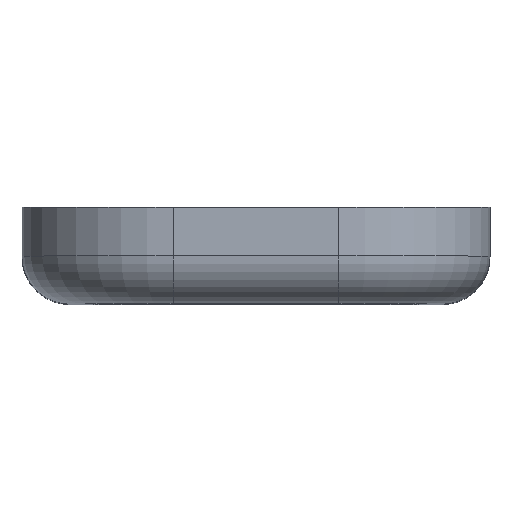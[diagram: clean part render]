
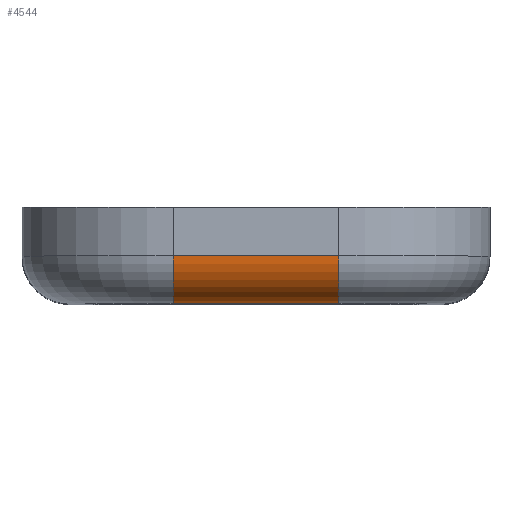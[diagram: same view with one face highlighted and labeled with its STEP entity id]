
A CAD part, top view. The second image highlights one B-rep face of the part: STEP entity #4544.
In plain terms, the highlighted cylindrical face has radius 9.2 mm (diameter 18.4 mm), a partial arc.
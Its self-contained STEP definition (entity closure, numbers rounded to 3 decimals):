
#497 = PLANE('',#498);
#498 = AXIS2_PLACEMENT_3D('',#499,#500,#501);
#499 = CARTESIAN_POINT('',(-45.2,-14.4,-76.2));
#500 = DIRECTION('',(0.,1.,0.));
#501 = DIRECTION('',(0.,-0.,1.));
#525 = TOROIDAL_SURFACE('',#526,20.,9.2);
#526 = AXIS2_PLACEMENT_3D('',#527,#528,#529);
#527 = CARTESIAN_POINT('',(-16.,-5.2,47.));
#528 = DIRECTION('',(0.,1.,0.));
#529 = DIRECTION('',(0.,0.,1.));
#1676 = VERTEX_POINT('',#1677);
#1677 = CARTESIAN_POINT('',(-16.,-14.4,67.));
#1703 = EDGE_CURVE('',#1704,#1676,#1706,.T.);
#1704 = VERTEX_POINT('',#1705);
#1705 = CARTESIAN_POINT('',(16.,-14.4,67.));
#1706 = SURFACE_CURVE('',#1707,(#1711,#1718),.PCURVE_S1.);
#1707 = LINE('',#1708,#1709);
#1708 = CARTESIAN_POINT('',(16.,-14.4,67.));
#1709 = VECTOR('',#1710,1.);
#1710 = DIRECTION('',(-1.,-0.,-0.));
#1711 = PCURVE('',#497,#1712);
#1712 = DEFINITIONAL_REPRESENTATION('',(#1713),#1717);
#1713 = LINE('',#1714,#1715);
#1714 = CARTESIAN_POINT('',(143.2,61.2));
#1715 = VECTOR('',#1716,1.);
#1716 = DIRECTION('',(0.,-1.));
#1717 = ( GEOMETRIC_REPRESENTATION_CONTEXT(2) 
PARAMETRIC_REPRESENTATION_CONTEXT() REPRESENTATION_CONTEXT('2D SPACE',''
  ) );
#1718 = PCURVE('',#1719,#1724);
#1719 = CYLINDRICAL_SURFACE('',#1720,9.2);
#1720 = AXIS2_PLACEMENT_3D('',#1721,#1722,#1723);
#1721 = CARTESIAN_POINT('',(16.,-5.2,67.));
#1722 = DIRECTION('',(-1.,-0.,-0.));
#1723 = DIRECTION('',(0.,-1.,0.));
#1724 = DEFINITIONAL_REPRESENTATION('',(#1725),#1729);
#1725 = LINE('',#1726,#1727);
#1726 = CARTESIAN_POINT('',(0.,0.));
#1727 = VECTOR('',#1728,1.);
#1728 = DIRECTION('',(0.,1.));
#1729 = ( GEOMETRIC_REPRESENTATION_CONTEXT(2) 
PARAMETRIC_REPRESENTATION_CONTEXT() REPRESENTATION_CONTEXT('2D SPACE',''
  ) );
#1752 = TOROIDAL_SURFACE('',#1753,20.,9.2);
#1753 = AXIS2_PLACEMENT_3D('',#1754,#1755,#1756);
#1754 = CARTESIAN_POINT('',(16.,-5.2,47.));
#1755 = DIRECTION('',(0.,1.,0.));
#1756 = DIRECTION('',(1.,0.,0.));
#2251 = VERTEX_POINT('',#2252);
#2252 = CARTESIAN_POINT('',(-16.,-5.2,76.2));
#2281 = EDGE_CURVE('',#1676,#2251,#2282,.T.);
#2282 = SURFACE_CURVE('',#2283,(#2288,#2294),.PCURVE_S1.);
#2283 = CIRCLE('',#2284,9.2);
#2284 = AXIS2_PLACEMENT_3D('',#2285,#2286,#2287);
#2285 = CARTESIAN_POINT('',(-16.,-5.2,67.));
#2286 = DIRECTION('',(-1.,0.,0.));
#2287 = DIRECTION('',(0.,-1.,0.));
#2288 = PCURVE('',#525,#2289);
#2289 = DEFINITIONAL_REPRESENTATION('',(#2290),#2293);
#2290 = B_SPLINE_CURVE_WITH_KNOTS('',1,(#2291,#2292),.UNSPECIFIED.,.F.,
  .F.,(2,2),(0.,1.571),.PIECEWISE_BEZIER_KNOTS.);
#2291 = CARTESIAN_POINT('',(6.283,4.712));
#2292 = CARTESIAN_POINT('',(6.283,6.283));
#2293 = ( GEOMETRIC_REPRESENTATION_CONTEXT(2) 
PARAMETRIC_REPRESENTATION_CONTEXT() REPRESENTATION_CONTEXT('2D SPACE',''
  ) );
#2294 = PCURVE('',#1719,#2295);
#2295 = DEFINITIONAL_REPRESENTATION('',(#2296),#2299);
#2296 = B_SPLINE_CURVE_WITH_KNOTS('',1,(#2297,#2298),.UNSPECIFIED.,.F.,
  .F.,(2,2),(0.,1.571),.PIECEWISE_BEZIER_KNOTS.);
#2297 = CARTESIAN_POINT('',(0.,32.));
#2298 = CARTESIAN_POINT('',(1.571,32.));
#2299 = ( GEOMETRIC_REPRESENTATION_CONTEXT(2) 
PARAMETRIC_REPRESENTATION_CONTEXT() REPRESENTATION_CONTEXT('2D SPACE',''
  ) );
#4495 = VERTEX_POINT('',#4496);
#4496 = CARTESIAN_POINT('',(16.,-5.2,76.2));
#4523 = EDGE_CURVE('',#1704,#4495,#4524,.T.);
#4524 = SURFACE_CURVE('',#4525,(#4530,#4536),.PCURVE_S1.);
#4525 = CIRCLE('',#4526,9.2);
#4526 = AXIS2_PLACEMENT_3D('',#4527,#4528,#4529);
#4527 = CARTESIAN_POINT('',(16.,-5.2,67.));
#4528 = DIRECTION('',(-1.,0.,0.));
#4529 = DIRECTION('',(0.,0.,1.));
#4530 = PCURVE('',#1752,#4531);
#4531 = DEFINITIONAL_REPRESENTATION('',(#4532),#4535);
#4532 = B_SPLINE_CURVE_WITH_KNOTS('',1,(#4533,#4534),.UNSPECIFIED.,.F.,
  .F.,(2,2),(4.712,6.283),.PIECEWISE_BEZIER_KNOTS.);
#4533 = CARTESIAN_POINT('',(4.712,4.712));
#4534 = CARTESIAN_POINT('',(4.712,6.283));
#4535 = ( GEOMETRIC_REPRESENTATION_CONTEXT(2) 
PARAMETRIC_REPRESENTATION_CONTEXT() REPRESENTATION_CONTEXT('2D SPACE',''
  ) );
#4536 = PCURVE('',#1719,#4537);
#4537 = DEFINITIONAL_REPRESENTATION('',(#4538),#4541);
#4538 = B_SPLINE_CURVE_WITH_KNOTS('',1,(#4539,#4540),.UNSPECIFIED.,.F.,
  .F.,(2,2),(4.712,6.283),.PIECEWISE_BEZIER_KNOTS.);
#4539 = CARTESIAN_POINT('',(0.,0.));
#4540 = CARTESIAN_POINT('',(1.571,0.));
#4541 = ( GEOMETRIC_REPRESENTATION_CONTEXT(2) 
PARAMETRIC_REPRESENTATION_CONTEXT() REPRESENTATION_CONTEXT('2D SPACE',''
  ) );
#4544 = ADVANCED_FACE('',(#4545),#1719,.T.);
#4545 = FACE_BOUND('',#4546,.T.);
#4546 = EDGE_LOOP('',(#4547,#4548,#4574,#4575));
#4547 = ORIENTED_EDGE('',*,*,#4523,.T.);
#4548 = ORIENTED_EDGE('',*,*,#4549,.T.);
#4549 = EDGE_CURVE('',#4495,#2251,#4550,.T.);
#4550 = SURFACE_CURVE('',#4551,(#4555,#4562),.PCURVE_S1.);
#4551 = LINE('',#4552,#4553);
#4552 = CARTESIAN_POINT('',(16.,-5.2,76.2));
#4553 = VECTOR('',#4554,1.);
#4554 = DIRECTION('',(-1.,-0.,-0.));
#4555 = PCURVE('',#1719,#4556);
#4556 = DEFINITIONAL_REPRESENTATION('',(#4557),#4561);
#4557 = LINE('',#4558,#4559);
#4558 = CARTESIAN_POINT('',(1.571,0.));
#4559 = VECTOR('',#4560,1.);
#4560 = DIRECTION('',(0.,1.));
#4561 = ( GEOMETRIC_REPRESENTATION_CONTEXT(2) 
PARAMETRIC_REPRESENTATION_CONTEXT() REPRESENTATION_CONTEXT('2D SPACE',''
  ) );
#4562 = PCURVE('',#4563,#4568);
#4563 = PLANE('',#4564);
#4564 = AXIS2_PLACEMENT_3D('',#4565,#4566,#4567);
#4565 = CARTESIAN_POINT('',(-45.2,-14.4,76.2));
#4566 = DIRECTION('',(0.,0.,1.));
#4567 = DIRECTION('',(1.,0.,-0.));
#4568 = DEFINITIONAL_REPRESENTATION('',(#4569),#4573);
#4569 = LINE('',#4570,#4571);
#4570 = CARTESIAN_POINT('',(61.2,9.2));
#4571 = VECTOR('',#4572,1.);
#4572 = DIRECTION('',(-1.,0.));
#4573 = ( GEOMETRIC_REPRESENTATION_CONTEXT(2) 
PARAMETRIC_REPRESENTATION_CONTEXT() REPRESENTATION_CONTEXT('2D SPACE',''
  ) );
#4574 = ORIENTED_EDGE('',*,*,#2281,.F.);
#4575 = ORIENTED_EDGE('',*,*,#1703,.F.);
